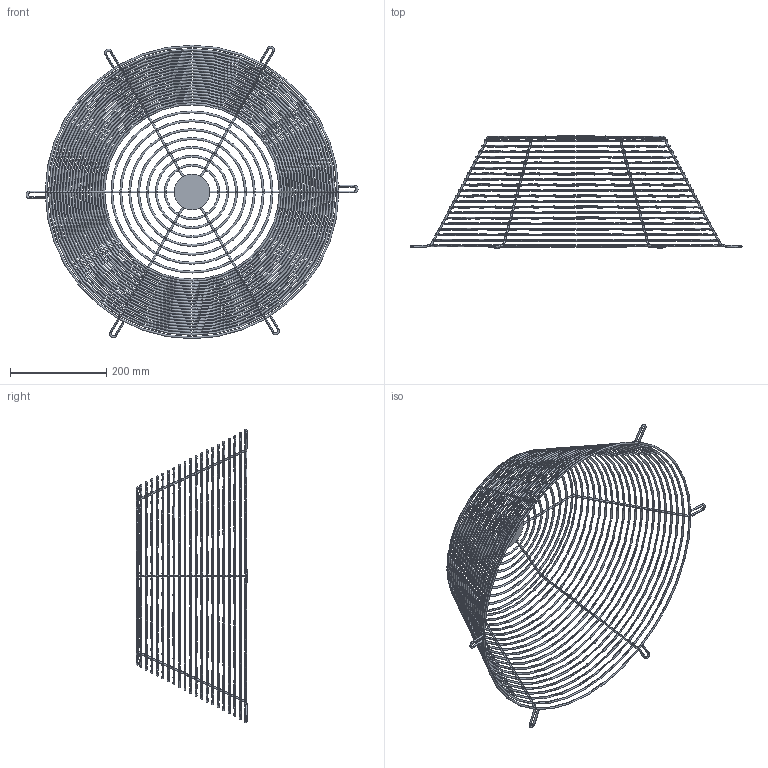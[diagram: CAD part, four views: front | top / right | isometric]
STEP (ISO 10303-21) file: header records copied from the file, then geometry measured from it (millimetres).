
FILE_DESCRIPTION(('STEP AP214'),'1');
FILE_NAME('accessory_5138825400.stp','2017-10-09T10:17:56',('TraceParts'),('TraceParts S.A.'),'Spatial InterOp 3D',' ',' ');
FILE_SCHEMA(('automotive_design'));
Length unit declared in the file: millimetre
Products named in the file (1): accessory_5138825400
Bounding box: 690 x 232 x 610 mm (x, y, z)
Volume: 511248.4 mm3; surface area: 499048.4 mm2
Topology: 1 solids, 1 shells, 302 faces, 1748 edges, 1092 vertices
Faces by surface type: torus 160, cylinder 92, plane 38, sphere 12
Entity records: 38632 total; most frequent: CARTESIAN_POINT 24101, ORIENTED_EDGE 3448, DIRECTION 1836, EDGE_CURVE 1724, VERTEX_POINT 1092, B_SPLINE_CURVE_WITH_KNOTS 972, AXIS2_PLACEMENT_3D 781, CIRCLE 454
